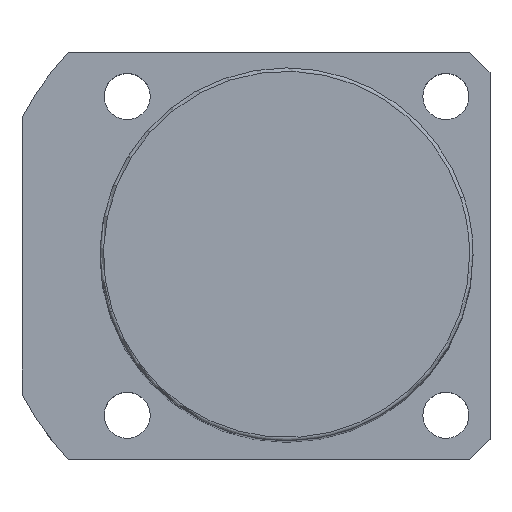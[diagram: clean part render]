
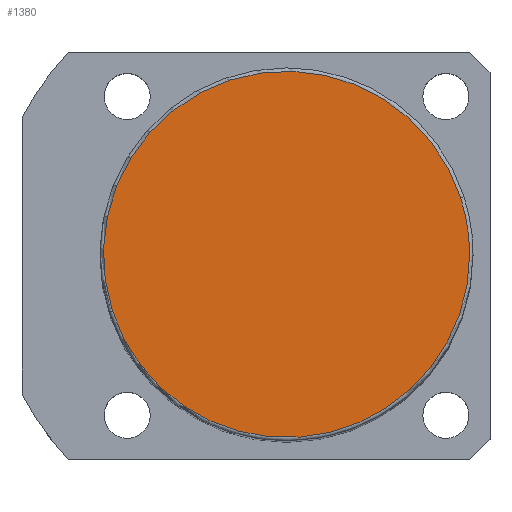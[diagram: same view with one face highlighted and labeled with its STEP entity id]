
A CAD part, top view. The second image highlights one B-rep face of the part: STEP entity #1380.
In plain terms, the highlighted planar face has unit normal (0, 0, 1).
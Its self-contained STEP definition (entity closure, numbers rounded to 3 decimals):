
#1346=CARTESIAN_POINT('',(27.0,0.0,136.0));
#1347=VERTEX_POINT('',#1346);
#1348=CARTESIAN_POINT('',(25.679,8.343,136.0));
#1349=VERTEX_POINT('',#1348);
#1350=CARTESIAN_POINT('',(0.0,0.0,136.0));
#1351=DIRECTION('',(0.0,0.0,1.0));
#1352=DIRECTION('',(1.0,0.0,0.0));
#1353=AXIS2_PLACEMENT_3D('',#1350,#1351,#1352);
#1354=CIRCLE('',#1353,27.0);
#1355=EDGE_CURVE('no 1867',#1347,#1349,#1354,.T.);
#1356=ORIENTED_EDGE('',*,*,#1355,.T.);
#1357=CARTESIAN_POINT('',(-25.679,-8.343,136.0));
#1358=VERTEX_POINT('',#1357);
#1359=CARTESIAN_POINT('',(0.0,0.0,136.0));
#1360=DIRECTION('',(0.0,0.0,1.0));
#1361=DIRECTION('',(1.0,0.0,0.0));
#1362=AXIS2_PLACEMENT_3D('',#1359,#1360,#1361);
#1363=CIRCLE('',#1362,27.0);
#1364=EDGE_CURVE('no 1873',#1349,#1358,#1363,.T.);
#1365=ORIENTED_EDGE('',*,*,#1364,.T.);
#1366=CARTESIAN_POINT('',(0.0,0.0,136.0));
#1367=DIRECTION('',(0.0,0.0,1.0));
#1368=DIRECTION('',(1.0,0.0,0.0));
#1369=AXIS2_PLACEMENT_3D('',#1366,#1367,#1368);
#1370=CIRCLE('',#1369,27.0);
#1371=EDGE_CURVE('no 1877',#1358,#1347,#1370,.T.);
#1372=ORIENTED_EDGE('',*,*,#1371,.T.);
#1373=EDGE_LOOP('',(#1356,#1365,#1372));
#1374=FACE_OUTER_BOUND('',#1373,.T.);
#1375=CARTESIAN_POINT('',(0.0,0.0,136.0));
#1376=DIRECTION('',(0.0,0.0,1.0));
#1377=DIRECTION('',(1.0,0.0,0.0));
#1378=AXIS2_PLACEMENT_3D('',#1375,#1376,#1377);
#1379=PLANE('',#1378);
#1380=ADVANCED_FACE('no 1858',(#1374),#1379,.T.);
